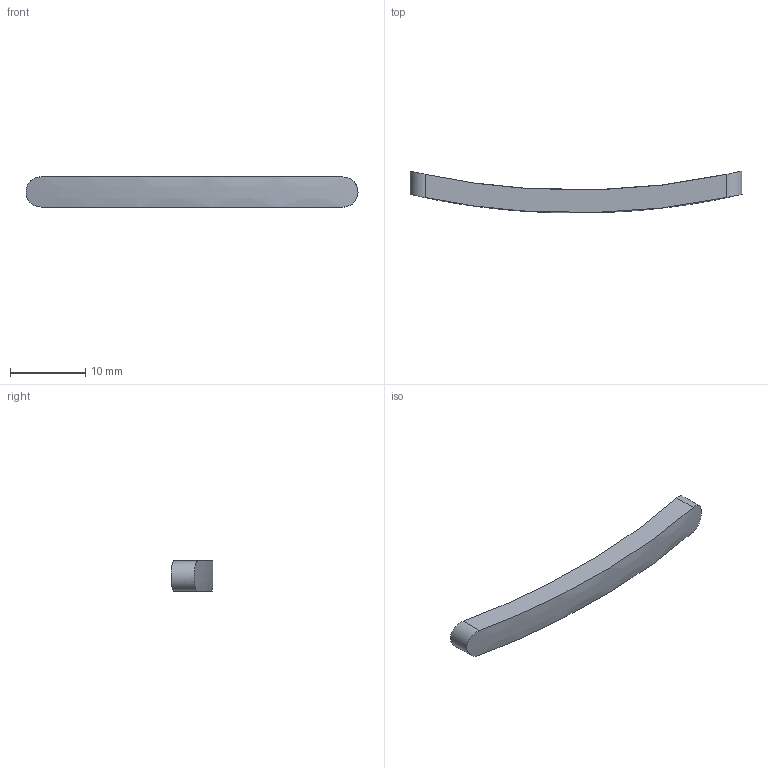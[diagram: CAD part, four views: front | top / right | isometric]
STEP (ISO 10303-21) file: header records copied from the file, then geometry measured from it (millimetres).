
FILE_DESCRIPTION(('Open CASCADE Model'),'2;1');
FILE_NAME('Open CASCADE Shape Model','2026-11-11T21:47:30',('Author'),( 'Open CASCADE'),'Open CASCADE STEP processor 8.0','build123d', 'Unknown');
FILE_SCHEMA(('AUTOMOTIVE_DESIGN { 1 0 10303 214 1 1 1 1 }'));
Length unit declared in the file: millimetre
Products named in the file (1): SOLID
Bounding box: 44 x 5.55 x 4 mm (x, y, z)
Volume: 522.2 mm3; surface area: 628.8 mm2
Topology: 1 solids, 1 shells, 6 faces, 14 edges, 10 vertices
Faces by surface type: plane 2, bspline 2, cylinder 2
Entity records: 19578 total; most frequent: CARTESIAN_POINT 19343, B_SPLINE_CURVE_WITH_KNOTS 32, ORIENTED_EDGE 28, PCURVE 28, DEFINITIONAL_REPRESENTATION 28, DIRECTION 20, EDGE_CURVE 14, SURFACE_CURVE 14
